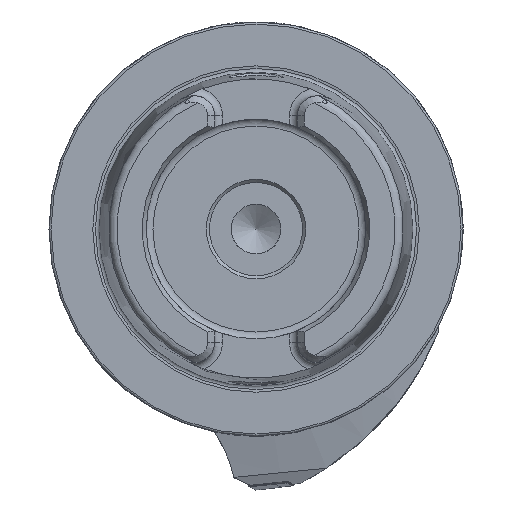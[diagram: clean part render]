
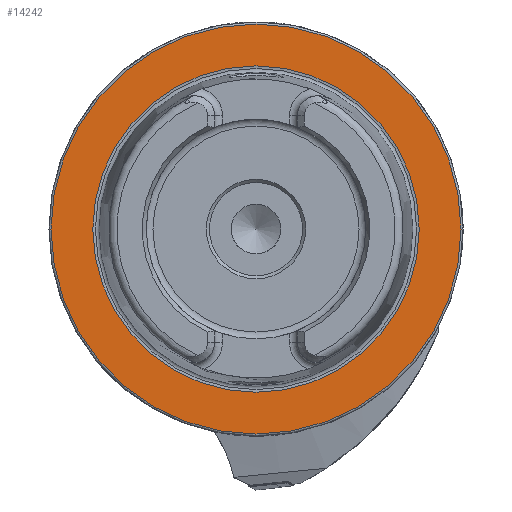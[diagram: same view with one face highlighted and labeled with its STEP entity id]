
A CAD part, left-side view. The second image highlights one B-rep face of the part: STEP entity #14242.
In plain terms, the highlighted planar face has unit normal (-1, 0, 0).
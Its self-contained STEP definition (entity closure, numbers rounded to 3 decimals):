
#69 = CIRCLE ( 'NONE', #556, 49.5 ) ;
#556 = AXIS2_PLACEMENT_3D ( 'NONE', #9370, #1469, #6122 ) ;
#590 = ORIENTED_EDGE ( 'NONE', *, *, #9098, .F. ) ;
#1076 = FACE_BOUND ( 'NONE', #4900, .T. ) ;
#1212 = ORIENTED_EDGE ( 'NONE', *, *, #8983, .T. ) ;
#1469 = DIRECTION ( 'NONE',  ( -1., 0., 0. ) ) ;
#4900 = EDGE_LOOP ( 'NONE', ( #590 ) ) ;
#4929 = CARTESIAN_POINT ( 'NONE',  ( 0., 0., 39.405 ) ) ;
#5165 = DIRECTION ( 'NONE',  ( 1., 0., 0. ) ) ;
#5181 = AXIS2_PLACEMENT_3D ( 'NONE', #8832, #11881, #13055 ) ;
#5712 = VERTEX_POINT ( 'NONE', #4929 ) ;
#6122 = DIRECTION ( 'NONE',  ( 0., 0., 1. ) ) ;
#7325 = PLANE ( 'NONE',  #11701 ) ;
#7382 = CARTESIAN_POINT ( 'NONE',  ( 0., 49.5, 0. ) ) ;
#8832 = CARTESIAN_POINT ( 'NONE',  ( 0., 0., 0. ) ) ;
#8983 = EDGE_CURVE ( 'NONE', #13601, #13601, #69, .T. ) ;
#9098 = EDGE_CURVE ( 'NONE', #5712, #5712, #13382, .T. ) ;
#9370 = CARTESIAN_POINT ( 'NONE',  ( 0., 0., 0. ) ) ;
#10569 = FACE_OUTER_BOUND ( 'NONE', #12710, .T. ) ;
#10771 = CARTESIAN_POINT ( 'NONE',  ( 0., 0., 49.5 ) ) ;
#11701 = AXIS2_PLACEMENT_3D ( 'NONE', #7382, #5165, #11919 ) ;
#11881 = DIRECTION ( 'NONE',  ( -1., 0., 0. ) ) ;
#11919 = DIRECTION ( 'NONE',  ( 0., 0., -1. ) ) ;
#12710 = EDGE_LOOP ( 'NONE', ( #1212 ) ) ;
#13055 = DIRECTION ( 'NONE',  ( 0., 0., 1. ) ) ;
#13382 = CIRCLE ( 'NONE', #5181, 39.405 ) ;
#13601 = VERTEX_POINT ( 'NONE', #10771 ) ;
#14242 = ADVANCED_FACE ( 'NONE', ( #1076, #10569 ), #7325, .F. ) ;
